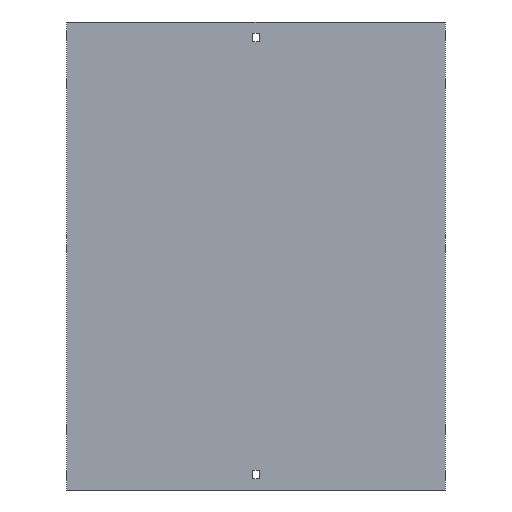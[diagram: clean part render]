
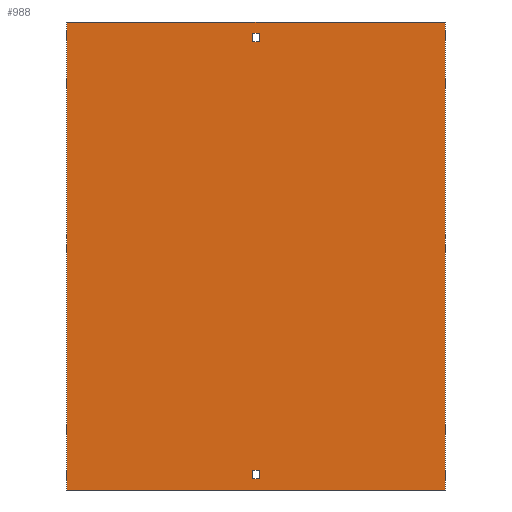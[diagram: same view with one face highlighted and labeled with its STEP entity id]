
A CAD part, front view. The second image highlights one B-rep face of the part: STEP entity #988.
In plain terms, the highlighted planar face has unit normal (0, -1, 0).
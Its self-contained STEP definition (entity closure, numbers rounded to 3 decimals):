
#26 = FACE_BOUND ( 'NONE', #1402, .T. ) ;
#34 = ORIENTED_EDGE ( 'NONE', *, *, #814, .T. ) ;
#39 = DIRECTION ( 'NONE',  ( 1., 0., 0. ) ) ;
#61 = CARTESIAN_POINT ( 'NONE',  ( -202., 0., -250. ) ) ;
#69 = CARTESIAN_POINT ( 'NONE',  ( 3.25, 0., 238. ) ) ;
#82 = VECTOR ( 'NONE', #1655, 1000. ) ;
#117 = CARTESIAN_POINT ( 'NONE',  ( -3.25, 0., -238. ) ) ;
#121 = VECTOR ( 'NONE', #854, 1000. ) ;
#127 = VERTEX_POINT ( 'NONE', #251 ) ;
#143 = VECTOR ( 'NONE', #961, 1000. ) ;
#161 = FACE_BOUND ( 'NONE', #1573, .T. ) ;
#204 = EDGE_CURVE ( 'NONE', #127, #1094, #780, .T. ) ;
#227 = CARTESIAN_POINT ( 'NONE',  ( -3.25, 0., -229. ) ) ;
#234 = LINE ( 'NONE', #1362, #121 ) ;
#247 = VECTOR ( 'NONE', #625, 1000. ) ;
#251 = CARTESIAN_POINT ( 'NONE',  ( 202., 0., 250. ) ) ;
#258 = LINE ( 'NONE', #227, #1455 ) ;
#260 = DIRECTION ( 'NONE',  ( 1., 0., 0. ) ) ;
#284 = DIRECTION ( 'NONE',  ( 0., 1., 0. ) ) ;
#287 = EDGE_CURVE ( 'NONE', #1675, #1322, #682, .T. ) ;
#331 = VERTEX_POINT ( 'NONE', #61 ) ;
#354 = ORIENTED_EDGE ( 'NONE', *, *, #1556, .T. ) ;
#368 = LINE ( 'NONE', #606, #1657 ) ;
#402 = ORIENTED_EDGE ( 'NONE', *, *, #204, .F. ) ;
#418 = CARTESIAN_POINT ( 'NONE',  ( 202., 0., 250. ) ) ;
#421 = PLANE ( 'NONE',  #1327 ) ;
#437 = CARTESIAN_POINT ( 'NONE',  ( -202., 0., 250. ) ) ;
#450 = LINE ( 'NONE', #437, #946 ) ;
#465 = EDGE_CURVE ( 'NONE', #1391, #610, #258, .T. ) ;
#484 = ORIENTED_EDGE ( 'NONE', *, *, #465, .T. ) ;
#534 = EDGE_CURVE ( 'NONE', #1673, #1529, #1130, .T. ) ;
#595 = ORIENTED_EDGE ( 'NONE', *, *, #1011, .F. ) ;
#602 = CARTESIAN_POINT ( 'NONE',  ( -3.25, 0., -238. ) ) ;
#606 = CARTESIAN_POINT ( 'NONE',  ( -202., 0., 250. ) ) ;
#610 = VERTEX_POINT ( 'NONE', #1560 ) ;
#622 = VECTOR ( 'NONE', #1186, 1000. ) ;
#625 = DIRECTION ( 'NONE',  ( -1., 0., 0. ) ) ;
#644 = LINE ( 'NONE', #675, #622 ) ;
#675 = CARTESIAN_POINT ( 'NONE',  ( -3.25, 0., 238. ) ) ;
#682 = LINE ( 'NONE', #69, #143 ) ;
#705 = VECTOR ( 'NONE', #39, 1000. ) ;
#730 = CARTESIAN_POINT ( 'NONE',  ( -202., 0., -250. ) ) ;
#739 = CARTESIAN_POINT ( 'NONE',  ( 3.25, 0., -238. ) ) ;
#755 = EDGE_CURVE ( 'NONE', #331, #1094, #1646, .T. ) ;
#769 = LINE ( 'NONE', #117, #247 ) ;
#778 = DIRECTION ( 'NONE',  ( -1., 0., 0. ) ) ;
#779 = VERTEX_POINT ( 'NONE', #739 ) ;
#780 = LINE ( 'NONE', #418, #1593 ) ;
#808 = CARTESIAN_POINT ( 'NONE',  ( 202., 0., -250. ) ) ;
#814 = EDGE_CURVE ( 'NONE', #1028, #1391, #1142, .T. ) ;
#846 = EDGE_CURVE ( 'NONE', #779, #1028, #769, .T. ) ;
#854 = DIRECTION ( 'NONE',  ( 0., 0., -1. ) ) ;
#885 = ORIENTED_EDGE ( 'NONE', *, *, #1219, .T. ) ;
#887 = ORIENTED_EDGE ( 'NONE', *, *, #998, .F. ) ;
#912 = CARTESIAN_POINT ( 'NONE',  ( 3.25, 0., 229. ) ) ;
#939 = CARTESIAN_POINT ( 'NONE',  ( -202., 0., 250. ) ) ;
#940 = EDGE_LOOP ( 'NONE', ( #1548, #402, #595, #885 ) ) ;
#946 = VECTOR ( 'NONE', #1356, 1000. ) ;
#961 = DIRECTION ( 'NONE',  ( 0., 0., 1. ) ) ;
#988 = ADVANCED_FACE ( 'NONE', ( #1178, #161, #26 ), #421, .F. ) ;
#996 = ORIENTED_EDGE ( 'NONE', *, *, #1283, .F. ) ;
#998 = EDGE_CURVE ( 'NONE', #1322, #1673, #644, .T. ) ;
#1011 = EDGE_CURVE ( 'NONE', #1413, #127, #450, .T. ) ;
#1012 = DIRECTION ( 'NONE',  ( 0., 0., 1. ) ) ;
#1028 = VERTEX_POINT ( 'NONE', #1613 ) ;
#1056 = CARTESIAN_POINT ( 'NONE',  ( 3.25, 0., 238. ) ) ;
#1068 = CARTESIAN_POINT ( 'NONE',  ( -202., 0., 250. ) ) ;
#1094 = VERTEX_POINT ( 'NONE', #808 ) ;
#1111 = CARTESIAN_POINT ( 'NONE',  ( -3.25, 0., 238. ) ) ;
#1130 = LINE ( 'NONE', #1111, #82 ) ;
#1135 = VECTOR ( 'NONE', #1012, 1000. ) ;
#1142 = LINE ( 'NONE', #602, #1135 ) ;
#1178 = FACE_OUTER_BOUND ( 'NONE', #940, .T. ) ;
#1186 = DIRECTION ( 'NONE',  ( -1., 0., 0. ) ) ;
#1219 = EDGE_CURVE ( 'NONE', #1413, #331, #368, .T. ) ;
#1253 = ORIENTED_EDGE ( 'NONE', *, *, #287, .F. ) ;
#1263 = DIRECTION ( 'NONE',  ( 0., 0., -1. ) ) ;
#1283 = EDGE_CURVE ( 'NONE', #1529, #1675, #1566, .T. ) ;
#1320 = CARTESIAN_POINT ( 'NONE',  ( -3.25, 0., 229. ) ) ;
#1322 = VERTEX_POINT ( 'NONE', #1056 ) ;
#1327 = AXIS2_PLACEMENT_3D ( 'NONE', #939, #284, #778 ) ;
#1356 = DIRECTION ( 'NONE',  ( 1., 0., 0. ) ) ;
#1362 = CARTESIAN_POINT ( 'NONE',  ( 3.25, 0., -238. ) ) ;
#1384 = ORIENTED_EDGE ( 'NONE', *, *, #846, .T. ) ;
#1391 = VERTEX_POINT ( 'NONE', #1425 ) ;
#1402 = EDGE_LOOP ( 'NONE', ( #34, #484, #354, #1384 ) ) ;
#1413 = VERTEX_POINT ( 'NONE', #1068 ) ;
#1425 = CARTESIAN_POINT ( 'NONE',  ( -3.25, 0., -229. ) ) ;
#1441 = DIRECTION ( 'NONE',  ( 0., 0., -1. ) ) ;
#1444 = CARTESIAN_POINT ( 'NONE',  ( -3.25, 0., 238. ) ) ;
#1455 = VECTOR ( 'NONE', #1508, 1000. ) ;
#1457 = VECTOR ( 'NONE', #260, 1000. ) ;
#1485 = ORIENTED_EDGE ( 'NONE', *, *, #534, .F. ) ;
#1508 = DIRECTION ( 'NONE',  ( 1., 0., 0. ) ) ;
#1517 = CARTESIAN_POINT ( 'NONE',  ( -3.25, 0., 229. ) ) ;
#1529 = VERTEX_POINT ( 'NONE', #1517 ) ;
#1548 = ORIENTED_EDGE ( 'NONE', *, *, #755, .T. ) ;
#1556 = EDGE_CURVE ( 'NONE', #610, #779, #234, .T. ) ;
#1560 = CARTESIAN_POINT ( 'NONE',  ( 3.25, 0., -229. ) ) ;
#1566 = LINE ( 'NONE', #1320, #705 ) ;
#1573 = EDGE_LOOP ( 'NONE', ( #996, #1485, #887, #1253 ) ) ;
#1593 = VECTOR ( 'NONE', #1441, 1000. ) ;
#1613 = CARTESIAN_POINT ( 'NONE',  ( -3.25, 0., -238. ) ) ;
#1646 = LINE ( 'NONE', #730, #1457 ) ;
#1655 = DIRECTION ( 'NONE',  ( 0., 0., -1. ) ) ;
#1657 = VECTOR ( 'NONE', #1263, 1000. ) ;
#1673 = VERTEX_POINT ( 'NONE', #1444 ) ;
#1675 = VERTEX_POINT ( 'NONE', #912 ) ;
